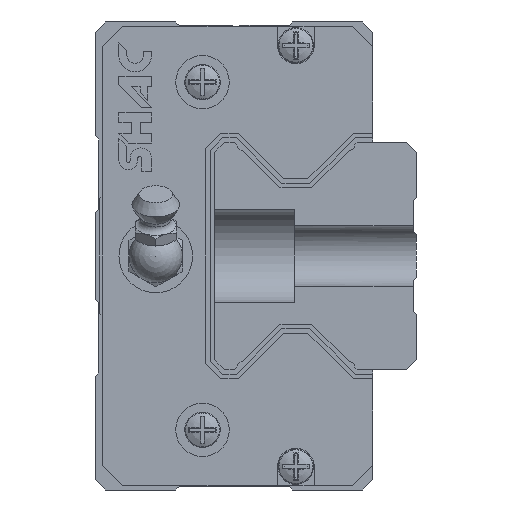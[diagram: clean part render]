
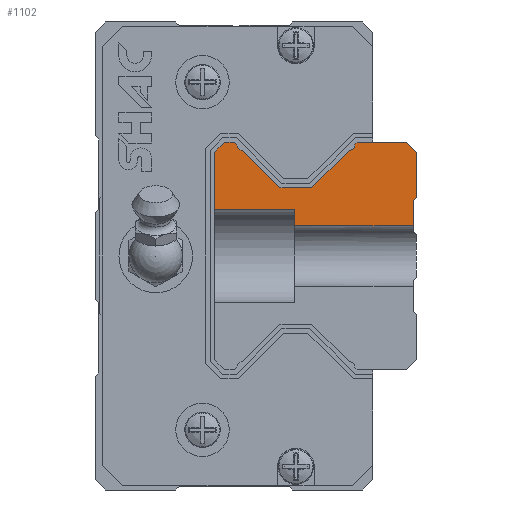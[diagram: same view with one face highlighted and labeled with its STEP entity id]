
A CAD part, left-side view. The second image highlights one B-rep face of the part: STEP entity #1102.
In plain terms, the highlighted planar face has unit normal (-1, 0, 0).
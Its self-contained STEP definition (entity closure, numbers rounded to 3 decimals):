
#1102 = ADVANCED_FACE( '', ( #2428 ), #2429, .F. );
#2428 = FACE_OUTER_BOUND( '', #4085, .T. );
#2429 = PLANE( '', #4086 );
#4085 = EDGE_LOOP( '', ( #6806, #6807, #6808, #6809, #6810, #6811, #6812, #6813, #6814, #6815, #6816, #6817, #6818, #6819, #6820, #6821, #6822, #6823 ) );
#4086 = AXIS2_PLACEMENT_3D( '', #6824, #6825, #6826 );
#6806 = ORIENTED_EDGE( '', *, *, #10828, .F. );
#6807 = ORIENTED_EDGE( '', *, *, #10829, .F. );
#6808 = ORIENTED_EDGE( '', *, *, #10214, .F. );
#6809 = ORIENTED_EDGE( '', *, *, #10830, .F. );
#6810 = ORIENTED_EDGE( '', *, *, #10831, .F. );
#6811 = ORIENTED_EDGE( '', *, *, #10832, .F. );
#6812 = ORIENTED_EDGE( '', *, *, #10833, .F. );
#6813 = ORIENTED_EDGE( '', *, *, #10834, .F. );
#6814 = ORIENTED_EDGE( '', *, *, #10835, .F. );
#6815 = ORIENTED_EDGE( '', *, *, #10836, .T. );
#6816 = ORIENTED_EDGE( '', *, *, #10837, .F. );
#6817 = ORIENTED_EDGE( '', *, *, #10084, .F. );
#6818 = ORIENTED_EDGE( '', *, *, #10838, .F. );
#6819 = ORIENTED_EDGE( '', *, *, #10839, .T. );
#6820 = ORIENTED_EDGE( '', *, *, #10840, .F. );
#6821 = ORIENTED_EDGE( '', *, *, #10841, .F. );
#6822 = ORIENTED_EDGE( '', *, *, #10089, .F. );
#6823 = ORIENTED_EDGE( '', *, *, #10842, .F. );
#6824 = CARTESIAN_POINT( '', ( -100., 25.782, 16.743 ) );
#6825 = DIRECTION( '', ( 1., 0., 0. ) );
#6826 = DIRECTION( '', ( 0., 0., -1. ) );
#10084 = EDGE_CURVE( '', #12061, #12062, #12063, .T. );
#10089 = EDGE_CURVE( '', #12070, #12071, #12072, .T. );
#10214 = EDGE_CURVE( '', #12291, #12293, #12294, .F. );
#10828 = EDGE_CURVE( '', #13299, #13300, #13301, .F. );
#10829 = EDGE_CURVE( '', #12293, #13299, #13302, .T. );
#10830 = EDGE_CURVE( '', #13303, #12291, #13304, .T. );
#10831 = EDGE_CURVE( '', #13305, #13303, #13306, .T. );
#10832 = EDGE_CURVE( '', #13307, #13305, #13308, .T. );
#10833 = EDGE_CURVE( '', #13309, #13307, #13310, .T. );
#10834 = EDGE_CURVE( '', #13311, #13309, #13312, .T. );
#10835 = EDGE_CURVE( '', #13313, #13311, #13314, .T. );
#10836 = EDGE_CURVE( '', #13313, #13315, #13316, .T. );
#10837 = EDGE_CURVE( '', #12062, #13315, #13317, .T. );
#10838 = EDGE_CURVE( '', #13318, #12061, #13319, .T. );
#10839 = EDGE_CURVE( '', #13318, #13320, #13321, .T. );
#10840 = EDGE_CURVE( '', #13322, #13320, #13323, .T. );
#10841 = EDGE_CURVE( '', #12071, #13322, #13324, .T. );
#10842 = EDGE_CURVE( '', #13300, #12070, #13325, .T. );
#12061 = VERTEX_POINT( '', #14929 );
#12062 = VERTEX_POINT( '', #14930 );
#12063 = LINE( '', #14931, #14932 );
#12070 = VERTEX_POINT( '', #14942 );
#12071 = VERTEX_POINT( '', #14943 );
#12072 = LINE( '', #14944, #14945 );
#12291 = VERTEX_POINT( '', #15264 );
#12293 = VERTEX_POINT( '', #15266 );
#12294 = LINE( '', #15267, #15268 );
#13299 = VERTEX_POINT( '', #16762 );
#13300 = VERTEX_POINT( '', #16763 );
#13301 = LINE( '', #16764, #16765 );
#13302 = LINE( '', #16766, #16767 );
#13303 = VERTEX_POINT( '', #16768 );
#13304 = LINE( '', #16769, #16770 );
#13305 = VERTEX_POINT( '', #16771 );
#13306 = LINE( '', #16772, #16773 );
#13307 = VERTEX_POINT( '', #16774 );
#13308 = LINE( '', #16775, #16776 );
#13309 = VERTEX_POINT( '', #16777 );
#13310 = LINE( '', #16778, #16779 );
#13311 = VERTEX_POINT( '', #16780 );
#13312 = LINE( '', #16781, #16782 );
#13313 = VERTEX_POINT( '', #16783 );
#13314 = LINE( '', #16784, #16785 );
#13315 = VERTEX_POINT( '', #16786 );
#13316 = CIRCLE( '', #16787, 1.067 );
#13317 = LINE( '', #16788, #16789 );
#13318 = VERTEX_POINT( '', #16790 );
#13319 = LINE( '', #16791, #16792 );
#13320 = VERTEX_POINT( '', #16793 );
#13321 = CIRCLE( '', #16794, 1.067 );
#13322 = VERTEX_POINT( '', #16795 );
#13323 = LINE( '', #16796, #16797 );
#13324 = LINE( '', #16798, #16799 );
#13325 = LINE( '', #16800, #16801 );
#14929 = CARTESIAN_POINT( '', ( -100., 20.414, 10.2 ) );
#14930 = CARTESIAN_POINT( '', ( -100., 15.67, 10.2 ) );
#14931 = CARTESIAN_POINT( '', ( -100., 20.414, 10.2 ) );
#14932 = VECTOR( '', #18620, 1000. );
#14942 = CARTESIAN_POINT( '', ( -100., 30.2, 15.507 ) );
#14943 = CARTESIAN_POINT( '', ( -100., 28.707, 17. ) );
#14944 = CARTESIAN_POINT( '', ( -100., 30.2, 15.507 ) );
#14945 = VECTOR( '', #18624, 1000. );
#15264 = CARTESIAN_POINT( '', ( -100., 0.5, 4.5 ) );
#15266 = CARTESIAN_POINT( '', ( -100., 18.2, 4.5 ) );
#15267 = CARTESIAN_POINT( '', ( -100., 0., 4.5 ) );
#15268 = VECTOR( '', #18754, 1000. );
#16762 = CARTESIAN_POINT( '', ( -100., 18.2, 7. ) );
#16763 = CARTESIAN_POINT( '', ( -100., 30.2, 7. ) );
#16764 = CARTESIAN_POINT( '', ( -100., 0., 7. ) );
#16765 = VECTOR( '', #19396, 1000. );
#16766 = CARTESIAN_POINT( '', ( -100., 18.2, 16.743 ) );
#16767 = VECTOR( '', #19397, 1000. );
#16768 = CARTESIAN_POINT( '', ( -100., 0.5, 8.25 ) );
#16769 = CARTESIAN_POINT( '', ( -100., 0.5, 8.25 ) );
#16770 = VECTOR( '', #19398, 1000. );
#16771 = CARTESIAN_POINT( '', ( -100., 0., 8.75 ) );
#16772 = CARTESIAN_POINT( '', ( -100., 0., 8.75 ) );
#16773 = VECTOR( '', #19399, 1000. );
#16774 = CARTESIAN_POINT( '', ( -100., 0., 15.5 ) );
#16775 = CARTESIAN_POINT( '', ( -100., 0., 15.5 ) );
#16776 = VECTOR( '', #19400, 1000. );
#16777 = CARTESIAN_POINT( '', ( -100., 1.5, 17. ) );
#16778 = CARTESIAN_POINT( '', ( -100., 1.5, 17. ) );
#16779 = VECTOR( '', #19401, 1000. );
#16780 = CARTESIAN_POINT( '', ( -100., 8.87, 17. ) );
#16781 = CARTESIAN_POINT( '', ( -100., 8.87, 17. ) );
#16782 = VECTOR( '', #19402, 1000. );
#16783 = CARTESIAN_POINT( '', ( -100., 9.241, 16.629 ) );
#16784 = CARTESIAN_POINT( '', ( -100., 9.241, 16.629 ) );
#16785 = VECTOR( '', #19403, 1000. );
#16786 = CARTESIAN_POINT( '', ( -100., 10.188, 15.682 ) );
#16787 = AXIS2_PLACEMENT_3D( '', #19404, #19405, #19406 );
#16788 = CARTESIAN_POINT( '', ( -100., 15.67, 10.2 ) );
#16789 = VECTOR( '', #19407, 1000. );
#16790 = CARTESIAN_POINT( '', ( -100., 25.896, 15.682 ) );
#16791 = CARTESIAN_POINT( '', ( -100., 25.896, 15.682 ) );
#16792 = VECTOR( '', #19408, 1000. );
#16793 = CARTESIAN_POINT( '', ( -100., 26.843, 16.629 ) );
#16794 = AXIS2_PLACEMENT_3D( '', #19409, #19410, #19411 );
#16795 = CARTESIAN_POINT( '', ( -100., 27.214, 17. ) );
#16796 = CARTESIAN_POINT( '', ( -100., 27.214, 17. ) );
#16797 = VECTOR( '', #19412, 1000. );
#16798 = CARTESIAN_POINT( '', ( -100., 28.707, 17. ) );
#16799 = VECTOR( '', #19413, 1000. );
#16800 = CARTESIAN_POINT( '', ( -100., 30.2, -15.507 ) );
#16801 = VECTOR( '', #19414, 1000. );
#18620 = DIRECTION( '', ( 0., -1., 0. ) );
#18624 = DIRECTION( '', ( 0., -0.707, 0.707 ) );
#18754 = DIRECTION( '', ( 0., -1., 0. ) );
#19396 = DIRECTION( '', ( 0., -1., 0. ) );
#19397 = DIRECTION( '', ( 0., 0., 1. ) );
#19398 = DIRECTION( '', ( 0., 0., -1. ) );
#19399 = DIRECTION( '', ( 0., 0.707, -0.707 ) );
#19400 = DIRECTION( '', ( 0., 0., -1. ) );
#19401 = DIRECTION( '', ( 0., -0.707, -0.707 ) );
#19402 = DIRECTION( '', ( 0., -1., 0. ) );
#19403 = DIRECTION( '', ( 0., -0.707, 0.707 ) );
#19404 = CARTESIAN_POINT( '', ( -100., 10.302, 16.743 ) );
#19405 = DIRECTION( '', ( 1., 0., 0. ) );
#19406 = DIRECTION( '', ( 0., 0., -1. ) );
#19407 = DIRECTION( '', ( 0., -0.707, 0.707 ) );
#19408 = DIRECTION( '', ( 0., -0.707, -0.707 ) );
#19409 = CARTESIAN_POINT( '', ( -100., 25.782, 16.743 ) );
#19410 = DIRECTION( '', ( 1., 0., 0. ) );
#19411 = DIRECTION( '', ( 0., 0., -1. ) );
#19412 = DIRECTION( '', ( 0., -0.707, -0.707 ) );
#19413 = DIRECTION( '', ( 0., -1., 0. ) );
#19414 = DIRECTION( '', ( 0., 0., 1. ) );
